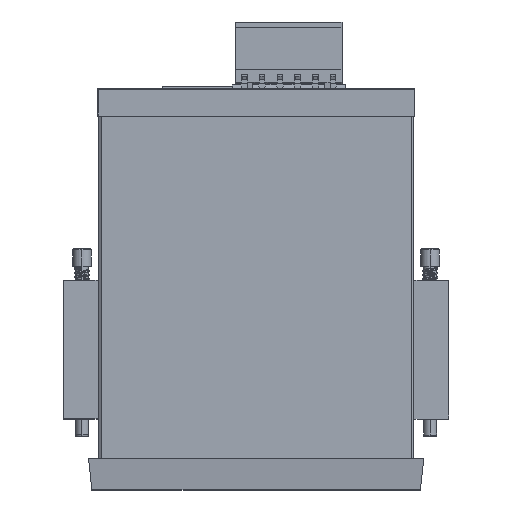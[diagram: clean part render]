
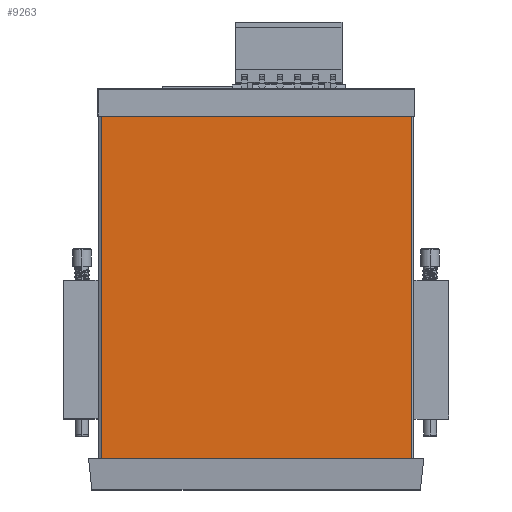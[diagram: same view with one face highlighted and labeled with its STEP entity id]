
A CAD part, top view. The second image highlights one B-rep face of the part: STEP entity #9263.
In plain terms, the highlighted planar face has unit normal (0, 0, 1).
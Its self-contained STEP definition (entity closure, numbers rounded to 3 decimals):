
#2443 = PLANE('',#2444);
#2444 = AXIS2_PLACEMENT_3D('',#2445,#2446,#2447);
#2445 = CARTESIAN_POINT('',(0.,0.,0.));
#2446 = DIRECTION('',(0.,-1.,0.));
#2447 = DIRECTION('',(0.,0.,-1.));
#5503 = VERTEX_POINT('',#5504);
#5504 = CARTESIAN_POINT('',(-44.37,0.,21.838));
#5518 = PLANE('',#5519);
#5519 = AXIS2_PLACEMENT_3D('',#5520,#5521,#5522);
#5520 = CARTESIAN_POINT('',(-45.106,0.,21.27));
#5521 = DIRECTION('',(-0.612,0.,0.791));
#5522 = DIRECTION('',(0.791,0.,0.612));
#5530 = EDGE_CURVE('',#5531,#5503,#5533,.T.);
#5531 = VERTEX_POINT('',#5532);
#5532 = CARTESIAN_POINT('',(44.628,0.,21.847));
#5533 = SURFACE_CURVE('',#5534,(#5538,#5545),.PCURVE_S1.);
#5534 = LINE('',#5535,#5536);
#5535 = CARTESIAN_POINT('',(44.628,0.,21.847));
#5536 = VECTOR('',#5537,1.);
#5537 = DIRECTION('',(-1.,0.,0.));
#5538 = PCURVE('',#2443,#5539);
#5539 = DEFINITIONAL_REPRESENTATION('',(#5540),#5544);
#5540 = LINE('',#5541,#5542);
#5541 = CARTESIAN_POINT('',(-21.847,44.628));
#5542 = VECTOR('',#5543,1.);
#5543 = DIRECTION('',(0.,-1.));
#5544 = ( GEOMETRIC_REPRESENTATION_CONTEXT(2) 
PARAMETRIC_REPRESENTATION_CONTEXT() REPRESENTATION_CONTEXT('2D SPACE',''
  ) );
#5545 = PCURVE('',#5546,#5551);
#5546 = PLANE('',#5547);
#5547 = AXIS2_PLACEMENT_3D('',#5548,#5549,#5550);
#5548 = CARTESIAN_POINT('',(-44.373,0.,21.836));
#5549 = DIRECTION('',(0.,0.,1.));
#5550 = DIRECTION('',(1.,0.,0.));
#5551 = DEFINITIONAL_REPRESENTATION('',(#5552),#5556);
#5552 = LINE('',#5553,#5554);
#5553 = CARTESIAN_POINT('',(89.001,0.));
#5554 = VECTOR('',#5555,1.);
#5555 = DIRECTION('',(-1.,0.));
#5556 = ( GEOMETRIC_REPRESENTATION_CONTEXT(2) 
PARAMETRIC_REPRESENTATION_CONTEXT() REPRESENTATION_CONTEXT('2D SPACE',''
  ) );
#5574 = PLANE('',#5575);
#5575 = AXIS2_PLACEMENT_3D('',#5576,#5577,#5578);
#5576 = CARTESIAN_POINT('',(44.631,0.,21.849));
#5577 = DIRECTION('',(0.612,0.,-0.791));
#5578 = DIRECTION('',(-0.791,0.,-0.612));
#6902 = PLANE('',#6903);
#6903 = AXIS2_PLACEMENT_3D('',#6904,#6905,#6906);
#6904 = CARTESIAN_POINT('',(-0.07,98.,-0.021)
  );
#6905 = DIRECTION('',(0.,-1.,0.));
#6906 = DIRECTION('',(0.,0.,-1.));
#9219 = EDGE_CURVE('',#9220,#5531,#9222,.T.);
#9220 = VERTEX_POINT('',#9221);
#9221 = CARTESIAN_POINT('',(44.631,98.,21.849));
#9222 = SURFACE_CURVE('',#9223,(#9227,#9234),.PCURVE_S1.);
#9223 = LINE('',#9224,#9225);
#9224 = CARTESIAN_POINT('',(44.631,98.,21.849));
#9225 = VECTOR('',#9226,1.);
#9226 = DIRECTION('',(0.,-1.,
    0.));
#9227 = PCURVE('',#5574,#9228);
#9228 = DEFINITIONAL_REPRESENTATION('',(#9229),#9233);
#9229 = LINE('',#9230,#9231);
#9230 = CARTESIAN_POINT('',(0.,98.));
#9231 = VECTOR('',#9232,1.);
#9232 = DIRECTION('',(0.,-1.));
#9233 = ( GEOMETRIC_REPRESENTATION_CONTEXT(2) 
PARAMETRIC_REPRESENTATION_CONTEXT() REPRESENTATION_CONTEXT('2D SPACE',''
  ) );
#9234 = PCURVE('',#5546,#9235);
#9235 = DEFINITIONAL_REPRESENTATION('',(#9236),#9240);
#9236 = LINE('',#9237,#9238);
#9237 = CARTESIAN_POINT('',(89.003,98.));
#9238 = VECTOR('',#9239,1.);
#9239 = DIRECTION('',(0.,-1.));
#9240 = ( GEOMETRIC_REPRESENTATION_CONTEXT(2) 
PARAMETRIC_REPRESENTATION_CONTEXT() REPRESENTATION_CONTEXT('2D SPACE',''
  ) );
#9263 = ADVANCED_FACE('',(#9264),#5546,.T.);
#9264 = FACE_BOUND('',#9265,.T.);
#9265 = EDGE_LOOP('',(#9266,#9267,#9290,#9311));
#9266 = ORIENTED_EDGE('',*,*,#9219,.F.);
#9267 = ORIENTED_EDGE('',*,*,#9268,.T.);
#9268 = EDGE_CURVE('',#9220,#9269,#9271,.T.);
#9269 = VERTEX_POINT('',#9270);
#9270 = CARTESIAN_POINT('',(-44.373,98.,21.836));
#9271 = SURFACE_CURVE('',#9272,(#9276,#9283),.PCURVE_S1.);
#9272 = LINE('',#9273,#9274);
#9273 = CARTESIAN_POINT('',(44.631,98.,21.849));
#9274 = VECTOR('',#9275,1.);
#9275 = DIRECTION('',(-1.,0.,0.));
#9276 = PCURVE('',#5546,#9277);
#9277 = DEFINITIONAL_REPRESENTATION('',(#9278),#9282);
#9278 = LINE('',#9279,#9280);
#9279 = CARTESIAN_POINT('',(89.003,98.));
#9280 = VECTOR('',#9281,1.);
#9281 = DIRECTION('',(-1.,0.));
#9282 = ( GEOMETRIC_REPRESENTATION_CONTEXT(2) 
PARAMETRIC_REPRESENTATION_CONTEXT() REPRESENTATION_CONTEXT('2D SPACE',''
  ) );
#9283 = PCURVE('',#6902,#9284);
#9284 = DEFINITIONAL_REPRESENTATION('',(#9285),#9289);
#9285 = LINE('',#9286,#9287);
#9286 = CARTESIAN_POINT('',(-21.87,44.7));
#9287 = VECTOR('',#9288,1.);
#9288 = DIRECTION('',(0.,-1.));
#9289 = ( GEOMETRIC_REPRESENTATION_CONTEXT(2) 
PARAMETRIC_REPRESENTATION_CONTEXT() REPRESENTATION_CONTEXT('2D SPACE',''
  ) );
#9290 = ORIENTED_EDGE('',*,*,#9291,.T.);
#9291 = EDGE_CURVE('',#9269,#5503,#9292,.T.);
#9292 = SURFACE_CURVE('',#9293,(#9297,#9304),.PCURVE_S1.);
#9293 = LINE('',#9294,#9295);
#9294 = CARTESIAN_POINT('',(-44.373,98.,21.836));
#9295 = VECTOR('',#9296,1.);
#9296 = DIRECTION('',(0.,-1.,
    0.));
#9297 = PCURVE('',#5546,#9298);
#9298 = DEFINITIONAL_REPRESENTATION('',(#9299),#9303);
#9299 = LINE('',#9300,#9301);
#9300 = CARTESIAN_POINT('',(0.,98.));
#9301 = VECTOR('',#9302,1.);
#9302 = DIRECTION('',(0.,-1.));
#9303 = ( GEOMETRIC_REPRESENTATION_CONTEXT(2) 
PARAMETRIC_REPRESENTATION_CONTEXT() REPRESENTATION_CONTEXT('2D SPACE',''
  ) );
#9304 = PCURVE('',#5518,#9305);
#9305 = DEFINITIONAL_REPRESENTATION('',(#9306),#9310);
#9306 = LINE('',#9307,#9308);
#9307 = CARTESIAN_POINT('',(0.926,98.));
#9308 = VECTOR('',#9309,1.);
#9309 = DIRECTION('',(0.,-1.));
#9310 = ( GEOMETRIC_REPRESENTATION_CONTEXT(2) 
PARAMETRIC_REPRESENTATION_CONTEXT() REPRESENTATION_CONTEXT('2D SPACE',''
  ) );
#9311 = ORIENTED_EDGE('',*,*,#5530,.F.);
